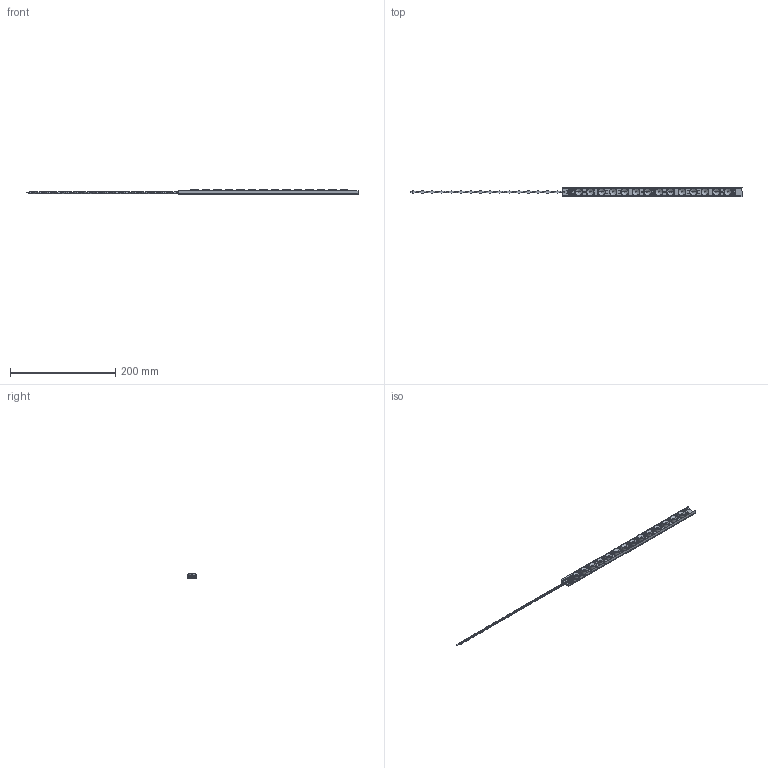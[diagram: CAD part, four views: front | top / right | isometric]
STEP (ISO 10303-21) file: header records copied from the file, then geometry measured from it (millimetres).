
FILE_DESCRIPTION (( 'STEP AP203' ), '1' );
FILE_NAME ('L09_1 ft_NARROW.STEP', '2020-05-15T16:18:44', ( '' ), ( '' ), 'SwSTEP 2.0', 'SolidWorks 2017', '' );
FILE_SCHEMA (( 'CONFIG_CONTROL_DESIGN' ));
Length unit declared in the file: millimetre
Products named in the file (13): REF-000074-00; AVX-60-9159-3402-0X-000_60-9159-3402-0X-000; ACB-000214-00; AVX-60-9159-3302-0X-000_60-9159-3302-0X-000; CLP-000046-00; CON-000198-00; L09_1 ft_NARROW; CON-000199-00; HSG-000250-00_339.8mm; OPC-000137-00; PCB-000101_102-00_PCB-000101-00; AVX-11-9159-002-101-916_11-9159-002-101-X16_With wires; ASY-006401-00
Assembly tree (23 placements, depth 3):
  L09_1 ft_NARROW
    PCB-000101_102-00_PCB-000101-00  x2
    ASY-006401-00  x2
      REF-000074-00
      OPC-000137-00
    CLP-000046-00
    HSG-000250-00_339.8mm
    CON-000199-00  x2
    CON-000198-00  x3
    ACB-000214-00
      AVX-11-9159-002-101-916_11-9159-002-101-X16_With wires
      AVX-60-9159-3302-0X-000_60-9159-3302-0X-000
      AVX-60-9159-3402-0X-000_60-9159-3402-0X-000
Bounding box: 629.68 x 18.5 x 9.1 mm (x, y, z)
Volume: 31591.5 mm3; surface area: 56132.3 mm2
Topology: 29 solids, 33 shells, 1667 faces, 4274 edges, 2668 vertices
Faces by surface type: plane 939, cylinder 358, bspline 303, cone 66, torus 1
Entity records: 37482 total; most frequent: CARTESIAN_POINT 14492, ORIENTED_EDGE 4604, DIRECTION 4217, EDGE_CURVE 2302, VECTOR 1575, LINE 1575, VERTEX_POINT 1472, AXIS2_PLACEMENT_3D 1321
